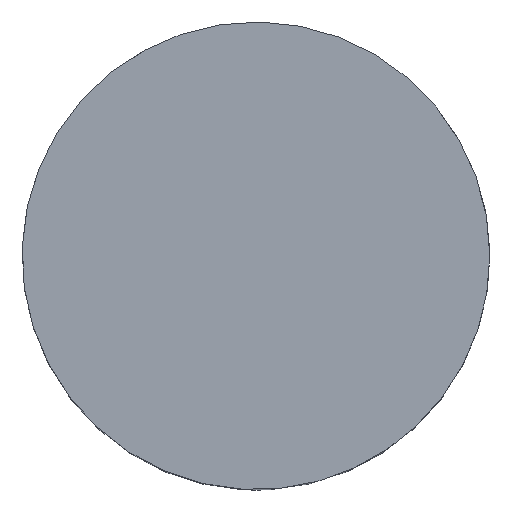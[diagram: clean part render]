
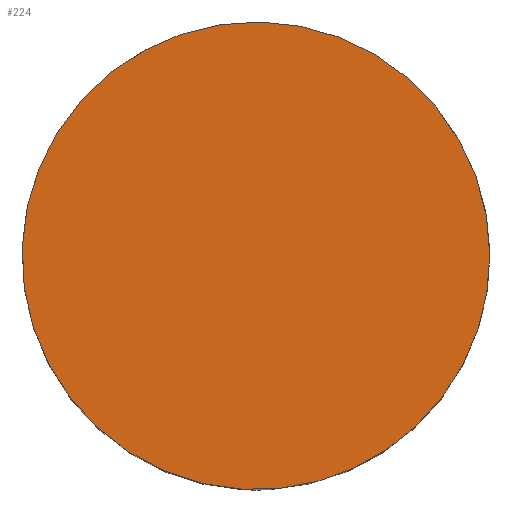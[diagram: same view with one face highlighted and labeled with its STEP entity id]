
A CAD part, top view. The second image highlights one B-rep face of the part: STEP entity #224.
In plain terms, the highlighted planar face has unit normal (0, 0, 1).
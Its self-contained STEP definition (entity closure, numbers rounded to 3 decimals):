
#27=PLANE('',#270);
#61=FACE_OUTER_BOUND('',#88,.T.);
#88=EDGE_LOOP('',(#188));
#115=CIRCLE('',#269,17.5);
#134=VERTEX_POINT('',#408);
#155=EDGE_CURVE('',#134,#134,#115,.T.);
#188=ORIENTED_EDGE('',*,*,#155,.T.);
#224=ADVANCED_FACE('',(#61),#27,.T.);
#269=AXIS2_PLACEMENT_3D('',#409,#346,#347);
#270=AXIS2_PLACEMENT_3D('',#410,#348,#349);
#346=DIRECTION('center_axis',(0.,0.,1.));
#347=DIRECTION('ref_axis',(-1.,0.,0.));
#348=DIRECTION('center_axis',(0.,0.,1.));
#349=DIRECTION('ref_axis',(1.,0.,0.));
#408=CARTESIAN_POINT('',(17.5,0.,22.));
#409=CARTESIAN_POINT('Origin',(0.,0.,22.));
#410=CARTESIAN_POINT('Origin',(0.,0.,
22.));
